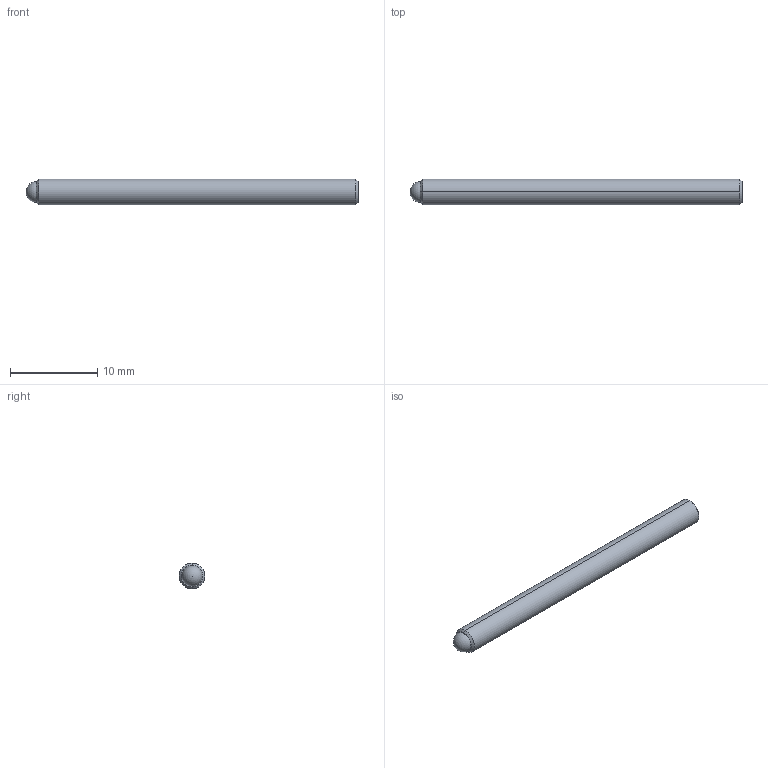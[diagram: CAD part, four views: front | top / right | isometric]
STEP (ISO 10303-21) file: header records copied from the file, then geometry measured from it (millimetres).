
FILE_DESCRIPTION (( 'STEP AP214' ), '1' );
FILE_NAME ('TS6-80-1500.STEP', '2014-07-28T19:33:25', ( 'workpc' ), ( 'Microsoft' ), 'SwSTEP 2.0', 'SolidWorks 2013', '' );
FILE_SCHEMA (( 'AUTOMOTIVE_DESIGN' ));
Length unit declared in the file: inch
Products named in the file (1): TS6-80-1500
Bounding box: 38.1 x 2.97 x 2.97 mm (x, y, z)
Volume: 249.4 mm3; surface area: 398 mm2
Topology: 2 solids, 2 shells, 20 faces, 45 edges, 29 vertices
Faces by surface type: plane 10, cylinder 4, cone 4, sphere 2
Entity records: 573 total; most frequent: DIRECTION 96, CARTESIAN_POINT 87, ORIENTED_EDGE 80, EDGE_CURVE 40, AXIS2_PLACEMENT_3D 35, VERTEX_POINT 26, LINE 26, VECTOR 26
